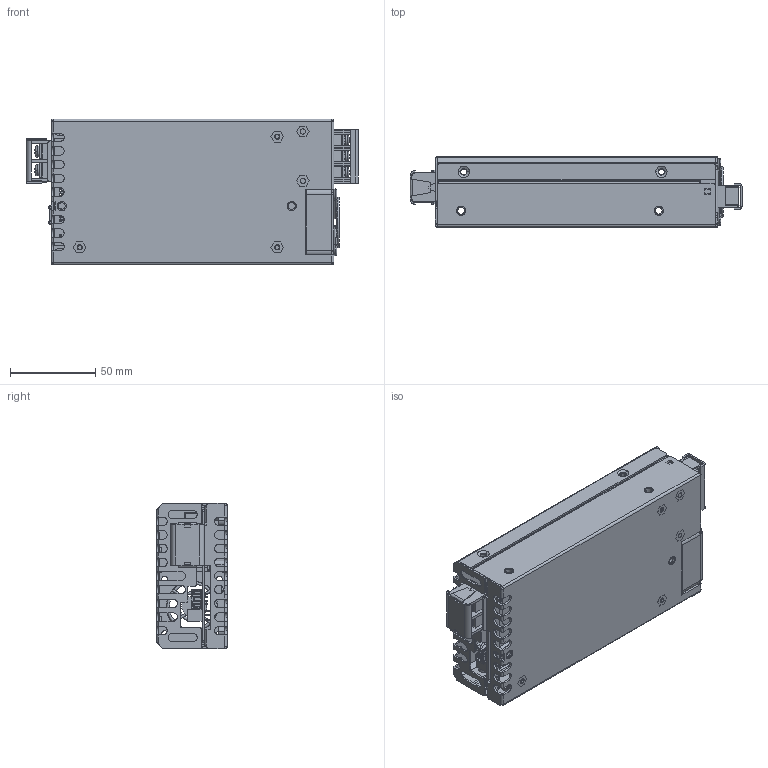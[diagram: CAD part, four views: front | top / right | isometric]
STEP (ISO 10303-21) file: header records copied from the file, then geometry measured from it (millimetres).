
FILE_DESCRIPTION((''),'2;1');
FILE_NAME('500W_ASM_20190606_ASM','2019-07-11T',('ROCK.WEN'),(''),'PRO/ENGINEER BY PARAMETRIC TECHNOLOGY CORPORATION, 2015240','PRO/ENGINEER BY PARAMETRIC TECHNOLOGY CORPORATION, 2015240','');
FILE_SCHEMA(('CONFIG_CONTROL_DESIGN','SHAPE_APPEARANCE_LAYERS_GROUPS'));
Length unit declared in the file: millimetre
Products named in the file (36): CHASSIS_2; STANF-OFF-M3-5_1; NUT_M4_1; STANF-OFF-6-32-10_1; CHASSIS_ASM_1_ASM; MANIFOLD_SOLID_BREP_17306; MANIFOLD_SOLID_BREP_17967; FAN_4CM_1_ASM; PWB_DT-2G-B14W-03_2; PRT0006_1; PRT0007_1; PRT0008_1; PRT0009_1; PRT0010_1; T24-EO3103A302_ASM_1_ASM; INPUT_ASM_2_ASM; MANIFOLD_SOLID_BREP_57563; MANIFOLD_SOLID_BREP_57669; MANIFOLD_SOLID_BREP_57963; MANIFOLD_SOLID_BREP_58257; PWB_DT-65-C14W-02_2; S8B-PHDSS_1; MANIFOLD_SOLID_BREP_5008_1; MANIFOLD_SOLID_BREP_7246_1; _DT-65-C01W-05_1_1; DT-65-C01W-05_1_ASM_1_ASM; 878336320_1; VR_1; DT-65-C14W-02_ASM_1_ASM; 3462402200-1_2_ASM; MANIFOLD_SOLID_BREP_66177; MANIFOLD_SOLID_BREP_66466; COVER_1_ASM; COVER_ASM_1_ASM; 500W_ASM_5_ASM; 500W_ASM_20190606_ASM
Assembly tree (43 placements, depth 6):
  500W_ASM_20190606_ASM
    500W_ASM_5_ASM
      CHASSIS_ASM_1_ASM
        CHASSIS_2
        STANF-OFF-M3-5_1  x3
        NUT_M4_1  x6
        STANF-OFF-6-32-10_1  x2
      FAN_4CM_1_ASM
        MANIFOLD_SOLID_BREP_17306
        MANIFOLD_SOLID_BREP_17967
      INPUT_ASM_2_ASM
        PWB_DT-2G-B14W-03_2
        T24-EO3103A302_ASM_1_ASM
          PRT0006_1
          PRT0007_1
          PRT0008_1
          PRT0009_1
          PRT0010_1
      3462402200-1_2_ASM
        MANIFOLD_SOLID_BREP_57563
        MANIFOLD_SOLID_BREP_57669
        MANIFOLD_SOLID_BREP_57963
        MANIFOLD_SOLID_BREP_58257
        DT-65-C14W-02_ASM_1_ASM
          PWB_DT-65-C14W-02_2
          S8B-PHDSS_1
          DT-65-C01W-05_1_ASM_1_ASM
            MANIFOLD_SOLID_BREP_5008_1
            MANIFOLD_SOLID_BREP_7246_1
            _DT-65-C01W-05_1_1
          878336320_1
          VR_1
      COVER_ASM_1_ASM
        COVER_1_ASM
          MANIFOLD_SOLID_BREP_66177
          MANIFOLD_SOLID_BREP_66466
Bounding box: 194.2 x 41 x 85.2 mm (x, y, z)
Volume: 80573.8 mm3; surface area: 119365.7 mm2
Topology: 32 solids, 36 shells, 2092 faces, 5669 edges, 3668 vertices
Faces by surface type: plane 1425, cylinder 499, cone 72, torus 36, bspline 34, revolution 22, sphere 4
Entity records: 65099 total; most frequent: CARTESIAN_POINT 13765, ORIENTED_EDGE 10698, DIRECTION 10339, EDGE_CURVE 5349, VECTOR 3857, LINE 3857, VERTEX_POINT 3440, AXIS2_PLACEMENT_3D 3230
